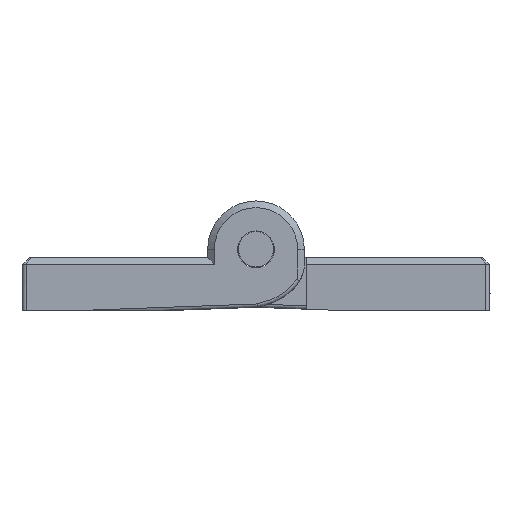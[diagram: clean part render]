
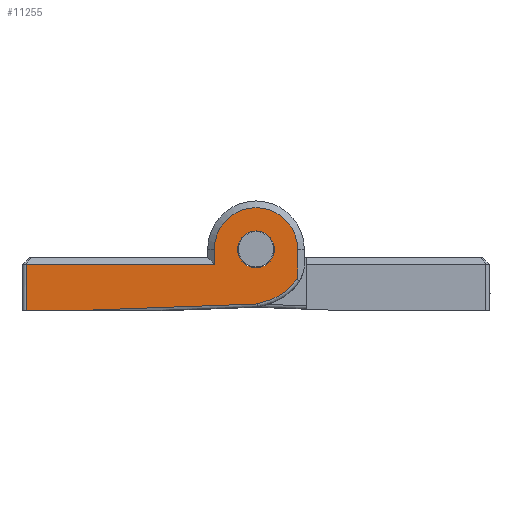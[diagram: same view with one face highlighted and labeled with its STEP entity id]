
A CAD part, front view. The second image highlights one B-rep face of the part: STEP entity #11255.
In plain terms, the highlighted planar face has unit normal (0, -1, 0) as drawn and (0, 1, 0) by its records, which use the part's own axes.
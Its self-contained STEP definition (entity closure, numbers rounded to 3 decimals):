
#33 = VECTOR ( 'NONE', #5572, 1000. ) ;
#314 = AXIS2_PLACEMENT_3D ( 'NONE', #3756, #3684, #3644 ) ;
#327 = EDGE_CURVE ( 'NONE', #2256, #4031, #2325, .T. ) ;
#346 = CARTESIAN_POINT ( 'NONE',  ( -0.843, 50., -8.049 ) ) ;
#388 = CARTESIAN_POINT ( 'NONE',  ( -6.109, 50., -4.479 ) ) ;
#549 = ORIENTED_EDGE ( 'NONE', *, *, #3648, .F. ) ;
#592 = ORIENTED_EDGE ( 'NONE', *, *, #5216, .T. ) ;
#790 = B_SPLINE_CURVE_WITH_KNOTS ( 'NONE', 3,
 ( #6719, #346, #7621, #2177, #8526, #3106, #9439, #4030, #10352, #4959, #11269, #5864, #388, #6763 ),
 .UNSPECIFIED., .F., .F.,
 ( 4, 2, 2, 2, 2, 2, 4 ),
 ( 0., 0.002, 0.003, 0.004, 0.006, 0.007, 0.007 ),
 .UNSPECIFIED. ) ;
#1221 = CARTESIAN_POINT ( 'NONE',  ( 6.25, 50., -1.25 ) ) ;
#1800 = EDGE_CURVE ( 'NONE', #11023, #7876, #4023, .T. ) ;
#2132 = DIRECTION ( 'NONE',  ( 0., 0., -1. ) ) ;
#2133 = DIRECTION ( 'NONE',  ( -0.999, 0., 0.037 ) ) ;
#2177 = CARTESIAN_POINT ( 'NONE',  ( -2.304, 50., -7.532 ) ) ;
#2256 = VERTEX_POINT ( 'NONE', #7307 ) ;
#2325 = LINE ( 'NONE', #10534, #7162 ) ;
#2489 = ORIENTED_EDGE ( 'NONE', *, *, #4631, .F. ) ;
#2517 = EDGE_CURVE ( 'NONE', #4031, #5156, #5569, .T. ) ;
#2796 = FACE_OUTER_BOUND ( 'NONE', #3741, .T. ) ;
#2891 = VECTOR ( 'NONE', #2133, 1000. ) ;
#2974 = VECTOR ( 'NONE', #2132, 1000. ) ;
#2986 = CARTESIAN_POINT ( 'NONE',  ( 28.654, 50., -9.25 ) ) ;
#2999 = ORIENTED_EDGE ( 'NONE', *, *, #2517, .T. ) ;
#3106 = CARTESIAN_POINT ( 'NONE',  ( -3.146, 50., -7.138 ) ) ;
#3212 = CIRCLE ( 'NONE', #4953, 2.75 ) ;
#3251 = CARTESIAN_POINT ( 'NONE',  ( 6.25, 50., 0. ) ) ;
#3644 = DIRECTION ( 'NONE',  ( 0., 0., 1. ) ) ;
#3648 = EDGE_CURVE ( 'NONE', #11504, #5501, #3671, .T. ) ;
#3671 = CIRCLE ( 'NONE', #7498, 2.75 ) ;
#3684 = DIRECTION ( 'NONE',  ( 0., 1., 0. ) ) ;
#3741 = EDGE_LOOP ( 'NONE', ( #592, #10545, #4276, #4115, #7709, #5381, #7068, #2999 ) ) ;
#3756 = CARTESIAN_POINT ( 'NONE',  ( 0., 50., 0. ) ) ;
#4023 = CIRCLE ( 'NONE', #314, 6.25 ) ;
#4030 = CARTESIAN_POINT ( 'NONE',  ( -4.217, 50., -6.506 ) ) ;
#4031 = VERTEX_POINT ( 'NONE', #7432 ) ;
#4115 = ORIENTED_EDGE ( 'NONE', *, *, #1800, .T. ) ;
#4276 = ORIENTED_EDGE ( 'NONE', *, *, #7053, .T. ) ;
#4433 = CARTESIAN_POINT ( 'NONE',  ( 0., 50., 0. ) ) ;
#4631 = EDGE_CURVE ( 'NONE', #5501, #11504, #3212, .T. ) ;
#4692 = CARTESIAN_POINT ( 'NONE',  ( -6.25, 50., 0. ) ) ;
#4724 = EDGE_LOOP ( 'NONE', ( #2489, #549 ) ) ;
#4812 = DIRECTION ( 'NONE',  ( 0., 1., 0. ) ) ;
#4953 = AXIS2_PLACEMENT_3D ( 'NONE', #4433, #10758, #5345 ) ;
#4959 = CARTESIAN_POINT ( 'NONE',  ( -5.372, 50., -5.476 ) ) ;
#5156 = VERTEX_POINT ( 'NONE', #2986 ) ;
#5216 = EDGE_CURVE ( 'NONE', #5156, #5984, #9857, .T. ) ;
#5345 = DIRECTION ( 'NONE',  ( 0., 0., 1. ) ) ;
#5381 = ORIENTED_EDGE ( 'NONE', *, *, #6621, .T. ) ;
#5414 = LINE ( 'NONE', #1221, #2974 ) ;
#5477 = LINE ( 'NONE', #7340, #33 ) ;
#5501 = VERTEX_POINT ( 'NONE', #10077 ) ;
#5569 = LINE ( 'NONE', #8175, #10093 ) ;
#5572 = DIRECTION ( 'NONE',  ( 1., 0., 0. ) ) ;
#5822 = CARTESIAN_POINT ( 'NONE',  ( 0., 50., 2.75 ) ) ;
#5864 = CARTESIAN_POINT ( 'NONE',  ( -5.945, 50., -4.742 ) ) ;
#5984 = VERTEX_POINT ( 'NONE', #7138 ) ;
#6209 = CARTESIAN_POINT ( 'NONE',  ( -6.25, 50., -4.2 ) ) ;
#6362 = DIRECTION ( 'NONE',  ( 0., 0., 1. ) ) ;
#6621 = EDGE_CURVE ( 'NONE', #7422, #2256, #5477, .T. ) ;
#6629 = CARTESIAN_POINT ( 'NONE',  ( 6.25, 50., -2.25 ) ) ;
#6719 = CARTESIAN_POINT ( 'NONE',  ( -0.237, 50., -8.191 ) ) ;
#6763 = CARTESIAN_POINT ( 'NONE',  ( -6.25, 50., -4.2 ) ) ;
#7053 = EDGE_CURVE ( 'NONE', #11662, #11023, #7144, .T. ) ;
#7068 = ORIENTED_EDGE ( 'NONE', *, *, #327, .T. ) ;
#7138 = CARTESIAN_POINT ( 'NONE',  ( -0.237, 50., -8.191 ) ) ;
#7144 = LINE ( 'NONE', #4692, #11405 ) ;
#7162 = VECTOR ( 'NONE', #10740, 1000. ) ;
#7307 = CARTESIAN_POINT ( 'NONE',  ( 34.5, 50., -2.25 ) ) ;
#7340 = CARTESIAN_POINT ( 'NONE',  ( 35., 50., -2.25 ) ) ;
#7341 = FACE_BOUND ( 'NONE', #4724, .T. ) ;
#7422 = VERTEX_POINT ( 'NONE', #6629 ) ;
#7432 = CARTESIAN_POINT ( 'NONE',  ( 34.5, 50., -9.25 ) ) ;
#7498 = AXIS2_PLACEMENT_3D ( 'NONE', #10210, #4812, #11139 ) ;
#7621 = CARTESIAN_POINT ( 'NONE',  ( -1.439, 50., -7.867 ) ) ;
#7709 = ORIENTED_EDGE ( 'NONE', *, *, #8478, .T. ) ;
#7876 = VERTEX_POINT ( 'NONE', #3251 ) ;
#8175 = CARTESIAN_POINT ( 'NONE',  ( 35., 50., -9.25 ) ) ;
#8478 = EDGE_CURVE ( 'NONE', #7876, #7422, #5414, .T. ) ;
#8526 = CARTESIAN_POINT ( 'NONE',  ( -2.588, 50., -7.409 ) ) ;
#9050 = DIRECTION ( 'NONE',  ( -1., 0., 0. ) ) ;
#9439 = CARTESIAN_POINT ( 'NONE',  ( -3.42, 50., -6.99 ) ) ;
#9440 = CARTESIAN_POINT ( 'NONE',  ( -0.286, 50., -8.19 ) ) ;
#9857 = LINE ( 'NONE', #9440, #2891 ) ;
#9969 = CARTESIAN_POINT ( 'NONE',  ( 0., 50., 0. ) ) ;
#10077 = CARTESIAN_POINT ( 'NONE',  ( 0., 50., -2.75 ) ) ;
#10093 = VECTOR ( 'NONE', #9050, 1000. ) ;
#10101 = DIRECTION ( 'NONE',  ( 0., 0., 1. ) ) ;
#10210 = CARTESIAN_POINT ( 'NONE',  ( 0., 50., 0. ) ) ;
#10305 = AXIS2_PLACEMENT_3D ( 'NONE', #9969, #11783, #6362 ) ;
#10352 = CARTESIAN_POINT ( 'NONE',  ( -4.71, 50., -6.135 ) ) ;
#10481 = CARTESIAN_POINT ( 'NONE',  ( -6.25, 50., 0. ) ) ;
#10534 = CARTESIAN_POINT ( 'NONE',  ( 34.5, 50., -9.25 ) ) ;
#10545 = ORIENTED_EDGE ( 'NONE', *, *, #11488, .T. ) ;
#10740 = DIRECTION ( 'NONE',  ( 0., 0., -1. ) ) ;
#10758 = DIRECTION ( 'NONE',  ( 0., 1., 0. ) ) ;
#10876 = PLANE ( 'NONE',  #10305 ) ;
#11023 = VERTEX_POINT ( 'NONE', #10481 ) ;
#11139 = DIRECTION ( 'NONE',  ( 0., 0., 1. ) ) ;
#11255 = ADVANCED_FACE ( 'NONE', ( #2796, #7341 ), #10876, .T. ) ;
#11269 = CARTESIAN_POINT ( 'NONE',  ( -5.578, 50., -5.24 ) ) ;
#11405 = VECTOR ( 'NONE', #10101, 1000. ) ;
#11488 = EDGE_CURVE ( 'NONE', #5984, #11662, #790, .T. ) ;
#11504 = VERTEX_POINT ( 'NONE', #5822 ) ;
#11662 = VERTEX_POINT ( 'NONE', #6209 ) ;
#11783 = DIRECTION ( 'NONE',  ( 0., 1., 0. ) ) ;
